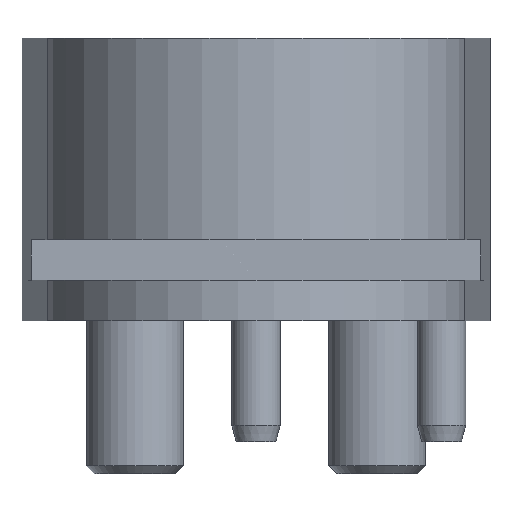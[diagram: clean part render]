
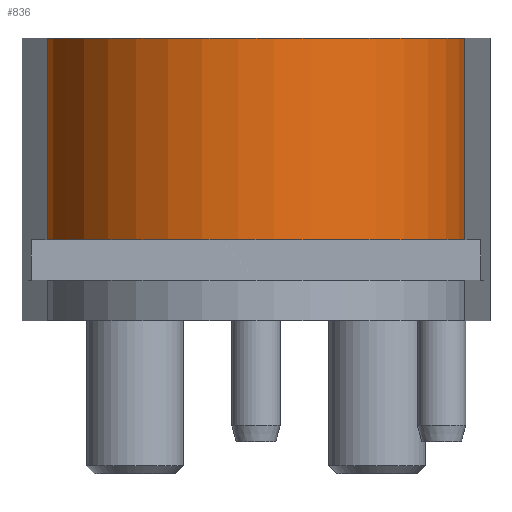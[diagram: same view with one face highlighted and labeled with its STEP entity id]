
A CAD part, left-side view. The second image highlights one B-rep face of the part: STEP entity #836.
In plain terms, the highlighted cylindrical face has radius 26 mm (diameter 52 mm), a partial arc.
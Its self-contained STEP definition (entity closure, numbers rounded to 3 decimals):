
#168=CYLINDRICAL_SURFACE('',#2805,26.);
#294=FACE_OUTER_BOUND('',#1117,.T.);
#476=LINE('',#4241,#675);
#477=LINE('',#4247,#676);
#675=VECTOR('',#3410,1.);
#676=VECTOR('',#3417,1.);
#836=ADVANCED_FACE('',(#294),#168,.T.);
#1117=EDGE_LOOP('',(#1612,#1613,#1614,#1615));
#1612=ORIENTED_EDGE('',*,*,#2347,.F.);
#1613=ORIENTED_EDGE('',*,*,#2346,.T.);
#1614=ORIENTED_EDGE('',*,*,#2348,.F.);
#1615=ORIENTED_EDGE('',*,*,#2349,.F.);
#2039=VERTEX_POINT('',#4235);
#2041=VERTEX_POINT('',#4240);
#2042=VERTEX_POINT('',#4244);
#2043=VERTEX_POINT('',#4246);
#2346=EDGE_CURVE('',#2039,#2041,#476,.T.);
#2347=EDGE_CURVE('',#2039,#2042,#2557,.T.);
#2348=EDGE_CURVE('',#2043,#2041,#2558,.T.);
#2349=EDGE_CURVE('',#2042,#2043,#477,.T.);
#2557=CIRCLE('',#2803,26.);
#2558=CIRCLE('',#2804,26.);
#2803=AXIS2_PLACEMENT_3D('',#4243,#3413,#3414);
#2804=AXIS2_PLACEMENT_3D('',#4245,#3415,#3416);
#2805=AXIS2_PLACEMENT_3D('',#4248,#3418,#3419);
#3410=DIRECTION('',(0.,0.,1.));
#3413=DIRECTION('',(0.,0.,-1.));
#3414=DIRECTION('',(1.,0.,0.));
#3415=DIRECTION('',(0.,0.,1.));
#3416=DIRECTION('',(1.,0.,0.));
#3417=DIRECTION('',(0.,0.,1.));
#3418=DIRECTION('',(0.,0.,1.));
#3419=DIRECTION('',(-1.,0.,0.));
#4235=CARTESIAN_POINT('',(-2.342,-25.894,10.));
#4240=CARTESIAN_POINT('',(-2.342,-25.894,35.));
#4241=CARTESIAN_POINT('',(-2.342,-25.894,5.));
#4243=CARTESIAN_POINT('',(0.,0.,10.));
#4244=CARTESIAN_POINT('',(-2.342,25.894,10.));
#4245=CARTESIAN_POINT('',(0.,0.,35.));
#4246=CARTESIAN_POINT('',(-2.342,25.894,35.));
#4247=CARTESIAN_POINT('',(-2.342,25.894,5.));
#4248=CARTESIAN_POINT('',(0.,0.,0.));
